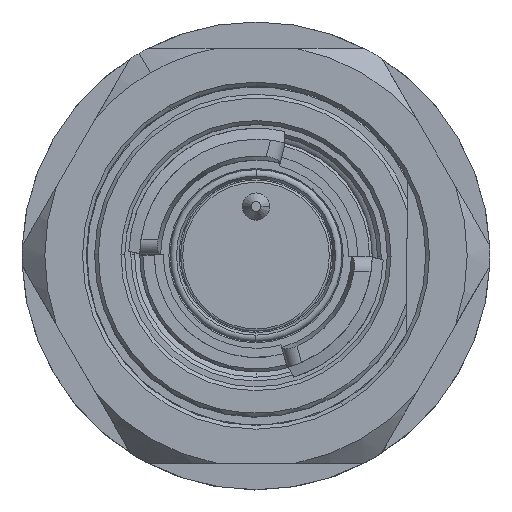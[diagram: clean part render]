
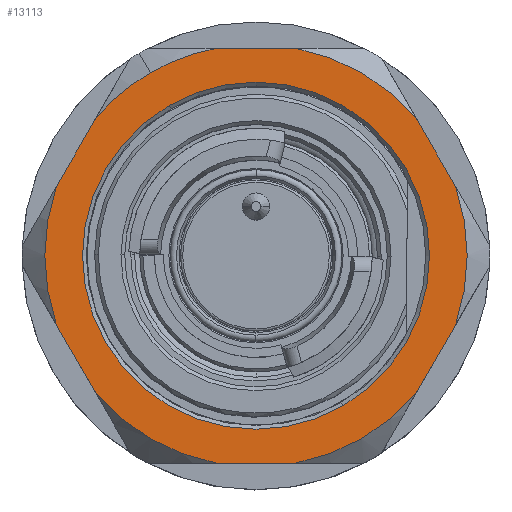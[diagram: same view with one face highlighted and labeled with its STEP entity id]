
A CAD part, top view. The second image highlights one B-rep face of the part: STEP entity #13113.
In plain terms, the highlighted planar face has unit normal (0, 0, 1).
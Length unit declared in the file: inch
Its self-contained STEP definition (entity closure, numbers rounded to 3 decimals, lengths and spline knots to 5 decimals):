
#10 = CARTESIAN_POINT ( 'NONE',  ( 0.3921, 0.22638, -0.30913 ) ) ;
#104 = FACE_BOUND ( 'NONE', #7704, .T. ) ;
#147 = CARTESIAN_POINT ( 'NONE',  ( -0.27559, 0.47734, -0.30913 ) ) ;
#203 = LINE ( 'NONE', #11216, #10768 ) ;
#228 = ORIENTED_EDGE ( 'NONE', *, *, #15481, .T. ) ;
#239 = DIRECTION ( 'NONE',  ( 0., 0., 1. ) ) ;
#356 = CARTESIAN_POINT ( 'NONE',  ( 0.22638, -0.3921, -0.30913 ) ) ;
#542 = DIRECTION ( 'NONE',  ( -1., 0., 0. ) ) ;
#584 = DIRECTION ( 'NONE',  ( 0.5, 0.866, 0. ) ) ;
#609 = AXIS2_PLACEMENT_3D ( 'NONE', #5372, #2563, #6636 ) ;
#627 = EDGE_CURVE ( 'NONE', #15957, #674, #3219, .T. ) ;
#674 = VERTEX_POINT ( 'NONE', #7637 ) ;
#711 = DIRECTION ( 'NONE',  ( 0., 0., 1. ) ) ;
#741 = EDGE_CURVE ( 'NONE', #9281, #16840, #2354, .T. ) ;
#748 = VERTEX_POINT ( 'NONE', #16248 ) ;
#845 = VECTOR ( 'NONE', #542, 39.37008 ) ;
#1072 = ORIENTED_EDGE ( 'NONE', *, *, #16545, .F. ) ;
#1263 = DIRECTION ( 'NONE',  ( 0., 0., 1. ) ) ;
#1549 = DIRECTION ( 'NONE',  ( 0., 0., -1. ) ) ;
#1674 = CARTESIAN_POINT ( 'NONE',  ( 0., 0., -0.30913 ) ) ;
#1678 = VERTEX_POINT ( 'NONE', #17155 ) ;
#1928 = DIRECTION ( 'NONE',  ( 0.5, -0.866, 0. ) ) ;
#2042 = AXIS2_PLACEMENT_3D ( 'NONE', #1674, #239, #9737 ) ;
#2079 = AXIS2_PLACEMENT_3D ( 'NONE', #5738, #11247, #9898 ) ;
#2100 = AXIS2_PLACEMENT_3D ( 'NONE', #2352, #16028, #16213 ) ;
#2153 = DIRECTION ( 'NONE',  ( 0.5, -0.866, 0. ) ) ;
#2226 = DIRECTION ( 'NONE',  ( 0., 0., 1. ) ) ;
#2269 = CARTESIAN_POINT ( 'NONE',  ( 0.46881, 0.27067, -0.30913 ) ) ;
#2352 = CARTESIAN_POINT ( 'NONE',  ( 0., 0., -0.30913 ) ) ;
#2354 = CIRCLE ( 'NONE', #609, 0.45276 ) ;
#2388 = EDGE_CURVE ( 'NONE', #6909, #6102, #16169, .T. ) ;
#2433 = AXIS2_PLACEMENT_3D ( 'NONE', #14524, #2226, #13189 ) ;
#2563 = DIRECTION ( 'NONE',  ( 0., 0., 1. ) ) ;
#2604 = CARTESIAN_POINT ( 'NONE',  ( 0.52066, 0.18086, -0.30913 ) ) ;
#2643 = VERTEX_POINT ( 'NONE', #12341 ) ;
#3005 = CARTESIAN_POINT ( 'NONE',  ( 0.3921, 0.54134, -0.30913 ) ) ;
#3053 = DIRECTION ( 'NONE',  ( 0., 0., 1. ) ) ;
#3219 = CIRCLE ( 'NONE', #9284, 0.55118 ) ;
#3521 = AXIS2_PLACEMENT_3D ( 'NONE', #17089, #711, #2153 ) ;
#3956 = EDGE_LOOP ( 'NONE', ( #17330, #12036, #4253, #12315, #15294, #11792, #8876, #14267, #228, #5819, #7495, #1072, #11694 ) ) ;
#4185 = EDGE_CURVE ( 'NONE', #16840, #9281, #9908, .T. ) ;
#4253 = ORIENTED_EDGE ( 'NONE', *, *, #9864, .F. ) ;
#4643 = ORIENTED_EDGE ( 'NONE', *, *, #4185, .F. ) ;
#4645 = EDGE_CURVE ( 'NONE', #1678, #9684, #12902, .T. ) ;
#4658 = CARTESIAN_POINT ( 'NONE',  ( 0., 0., -0.30913 ) ) ;
#5372 = CARTESIAN_POINT ( 'NONE',  ( 0., 0., -0.30913 ) ) ;
#5508 = AXIS2_PLACEMENT_3D ( 'NONE', #10, #1549, #15036 ) ;
#5608 = FACE_OUTER_BOUND ( 'NONE', #3956, .T. ) ;
#5738 = CARTESIAN_POINT ( 'NONE',  ( 0., 0., -0.30913 ) ) ;
#5819 = ORIENTED_EDGE ( 'NONE', *, *, #4645, .F. ) ;
#6080 = CIRCLE ( 'NONE', #15007, 0.55118 ) ;
#6102 = VERTEX_POINT ( 'NONE', #2604 ) ;
#6309 = CARTESIAN_POINT ( 'NONE',  ( 0.3921, -0.54134, -0.30913 ) ) ;
#6319 = VERTEX_POINT ( 'NONE', #11860 ) ;
#6368 = VERTEX_POINT ( 'NONE', #7442 ) ;
#6425 = DIRECTION ( 'NONE',  ( 0.5, -0.866, 0. ) ) ;
#6636 = DIRECTION ( 'NONE',  ( 0.5, -0.866, 0. ) ) ;
#6877 = DIRECTION ( 'NONE',  ( -0.5, 0.866, 0. ) ) ;
#6909 = VERTEX_POINT ( 'NONE', #9706 ) ;
#7308 = DIRECTION ( 'NONE',  ( -0.5, -0.866, 0. ) ) ;
#7311 = LINE ( 'NONE', #6309, #845 ) ;
#7442 = CARTESIAN_POINT ( 'NONE',  ( 0.1037, 0.54134, -0.30913 ) ) ;
#7480 = LINE ( 'NONE', #12861, #8063 ) ;
#7495 = ORIENTED_EDGE ( 'NONE', *, *, #17447, .T. ) ;
#7599 = EDGE_CURVE ( 'NONE', #2643, #16030, #8496, .T. ) ;
#7637 = CARTESIAN_POINT ( 'NONE',  ( 0.41696, -0.36047, -0.30913 ) ) ;
#7704 = EDGE_LOOP ( 'NONE', ( #15496, #4643 ) ) ;
#7722 = CARTESIAN_POINT ( 'NONE',  ( -0.27276, 0.61024, -0.30913 ) ) ;
#8063 = VECTOR ( 'NONE', #7308, 39.37008 ) ;
#8069 = VERTEX_POINT ( 'NONE', #11917 ) ;
#8495 = EDGE_CURVE ( 'NONE', #2643, #6368, #15314, .T. ) ;
#8496 = CIRCLE ( 'NONE', #2433, 0.55118 ) ;
#8528 = DIRECTION ( 'NONE',  ( 1., 0., 0. ) ) ;
#8569 = DIRECTION ( 'NONE',  ( 0.5, -0.866, 0. ) ) ;
#8876 = ORIENTED_EDGE ( 'NONE', *, *, #8495, .F. ) ;
#9046 = VECTOR ( 'NONE', #584, 39.37008 ) ;
#9281 = VERTEX_POINT ( 'NONE', #356 ) ;
#9284 = AXIS2_PLACEMENT_3D ( 'NONE', #4658, #17323, #1928 ) ;
#9684 = VERTEX_POINT ( 'NONE', #15436 ) ;
#9706 = CARTESIAN_POINT ( 'NONE',  ( 0.52066, -0.18086, -0.30913 ) ) ;
#9737 = DIRECTION ( 'NONE',  ( 0.5, -0.866, 0. ) ) ;
#9864 = EDGE_CURVE ( 'NONE', #6909, #674, #7480, .T. ) ;
#9898 = DIRECTION ( 'NONE',  ( 0.5, -0.866, 0. ) ) ;
#9908 = CIRCLE ( 'NONE', #2100, 0.45276 ) ;
#9991 = EDGE_CURVE ( 'NONE', #15957, #6319, #7311, .T. ) ;
#10491 = CIRCLE ( 'NONE', #15612, 0.55118 ) ;
#10719 = CIRCLE ( 'NONE', #2042, 0.55118 ) ;
#10768 = VECTOR ( 'NONE', #6877, 39.37008 ) ;
#10899 = CARTESIAN_POINT ( 'NONE',  ( 0.41696, 0.36047, -0.30913 ) ) ;
#11216 = CARTESIAN_POINT ( 'NONE',  ( -0.46881, -0.27067, -0.30913 ) ) ;
#11247 = DIRECTION ( 'NONE',  ( 0., 0., 1. ) ) ;
#11605 = VECTOR ( 'NONE', #6425, 39.37008 ) ;
#11694 = ORIENTED_EDGE ( 'NONE', *, *, #14763, .T. ) ;
#11792 = ORIENTED_EDGE ( 'NONE', *, *, #13616, .T. ) ;
#11860 = CARTESIAN_POINT ( 'NONE',  ( -0.1037, -0.54134, -0.30913 ) ) ;
#11917 = CARTESIAN_POINT ( 'NONE',  ( -0.52066, -0.18086, -0.30913 ) ) ;
#12036 = ORIENTED_EDGE ( 'NONE', *, *, #627, .T. ) ;
#12315 = ORIENTED_EDGE ( 'NONE', *, *, #2388, .T. ) ;
#12327 = DIRECTION ( 'NONE',  ( 0.5, -0.866, 0. ) ) ;
#12341 = CARTESIAN_POINT ( 'NONE',  ( -0.1037, 0.54134, -0.30913 ) ) ;
#12861 = CARTESIAN_POINT ( 'NONE',  ( 0.66486, 0.0689, -0.30913 ) ) ;
#12902 = LINE ( 'NONE', #7722, #9046 ) ;
#13113 = ADVANCED_FACE ( 'NONE', ( #104, #5608 ), #13680, .F. ) ;
#13189 = DIRECTION ( 'NONE',  ( 0.5, -0.866, 0. ) ) ;
#13616 = EDGE_CURVE ( 'NONE', #13956, #6368, #10719, .T. ) ;
#13664 = CARTESIAN_POINT ( 'NONE',  ( 0., 0., -0.30913 ) ) ;
#13680 = PLANE ( 'NONE',  #5508 ) ;
#13956 = VERTEX_POINT ( 'NONE', #10899 ) ;
#14267 = ORIENTED_EDGE ( 'NONE', *, *, #7599, .T. ) ;
#14524 = CARTESIAN_POINT ( 'NONE',  ( 0., 0., -0.30913 ) ) ;
#14572 = LINE ( 'NONE', #2269, #11605 ) ;
#14763 = EDGE_CURVE ( 'NONE', #748, #6319, #15299, .T. ) ;
#15007 = AXIS2_PLACEMENT_3D ( 'NONE', #13664, #1263, #12327 ) ;
#15036 = DIRECTION ( 'NONE',  ( -0.5, 0.866, 0. ) ) ;
#15182 = VECTOR ( 'NONE', #8528, 39.37008 ) ;
#15294 = ORIENTED_EDGE ( 'NONE', *, *, #16284, .F. ) ;
#15299 = CIRCLE ( 'NONE', #3521, 0.55118 ) ;
#15314 = LINE ( 'NONE', #3005, #15182 ) ;
#15436 = CARTESIAN_POINT ( 'NONE',  ( -0.41696, 0.36047, -0.30913 ) ) ;
#15481 = EDGE_CURVE ( 'NONE', #16030, #9684, #6080, .T. ) ;
#15496 = ORIENTED_EDGE ( 'NONE', *, *, #741, .F. ) ;
#15612 = AXIS2_PLACEMENT_3D ( 'NONE', #17061, #3053, #8569 ) ;
#15677 = CARTESIAN_POINT ( 'NONE',  ( -0.22638, 0.3921, -0.30913 ) ) ;
#15893 = CARTESIAN_POINT ( 'NONE',  ( 0.1037, -0.54134, -0.30913 ) ) ;
#15957 = VERTEX_POINT ( 'NONE', #15893 ) ;
#16028 = DIRECTION ( 'NONE',  ( 0., 0., 1. ) ) ;
#16030 = VERTEX_POINT ( 'NONE', #147 ) ;
#16169 = CIRCLE ( 'NONE', #2079, 0.55118 ) ;
#16213 = DIRECTION ( 'NONE',  ( 0.5, -0.866, 0. ) ) ;
#16248 = CARTESIAN_POINT ( 'NONE',  ( -0.41696, -0.36047, -0.30913 ) ) ;
#16284 = EDGE_CURVE ( 'NONE', #13956, #6102, #14572, .T. ) ;
#16545 = EDGE_CURVE ( 'NONE', #748, #8069, #203, .T. ) ;
#16840 = VERTEX_POINT ( 'NONE', #15677 ) ;
#17061 = CARTESIAN_POINT ( 'NONE',  ( 0., 0., -0.30913 ) ) ;
#17089 = CARTESIAN_POINT ( 'NONE',  ( 0., 0., -0.30913 ) ) ;
#17155 = CARTESIAN_POINT ( 'NONE',  ( -0.52066, 0.18086, -0.30913 ) ) ;
#17323 = DIRECTION ( 'NONE',  ( 0., 0., 1. ) ) ;
#17330 = ORIENTED_EDGE ( 'NONE', *, *, #9991, .F. ) ;
#17447 = EDGE_CURVE ( 'NONE', #1678, #8069, #10491, .T. ) ;
